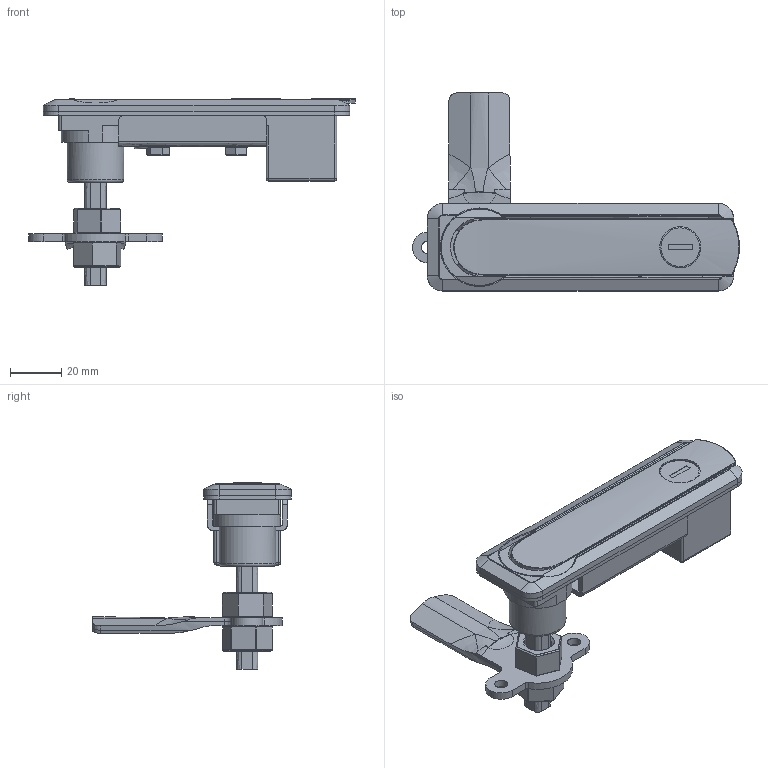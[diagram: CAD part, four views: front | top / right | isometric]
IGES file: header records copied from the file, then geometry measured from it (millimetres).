
Global section: file name: DR_MG-403; native system: Autodesk Inventor 2015; preprocessor: unknown; author: Administrator; date: 20201208.161332; units: millimetre
Bounding box: 127 x 77 x 72.5 mm (x, y, z)
Volume: 66927.4 mm3; surface area: 52722.2 mm2
Topology: 17 solids, 17 shells, 676 faces, 1620 edges, 985 vertices
Faces by surface type: bspline 676
